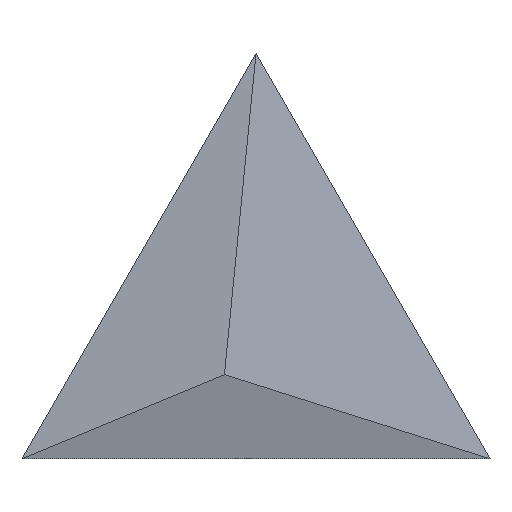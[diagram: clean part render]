
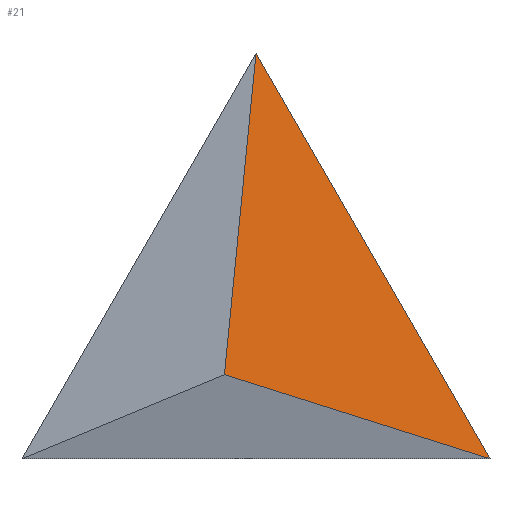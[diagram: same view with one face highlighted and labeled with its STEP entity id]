
A CAD part, top view. The second image highlights one B-rep face of the part: STEP entity #21.
In plain terms, the highlighted planar face has unit normal (0.094, 0.054, 0.994).
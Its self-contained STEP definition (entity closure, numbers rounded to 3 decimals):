
#21=ADVANCED_FACE('',(#28),#97,.T.);
#28=FACE_OUTER_BOUND('',#35,.T.);
#35=EDGE_LOOP('',(#57,#58,#59));
#57=ORIENTED_EDGE('',*,*,#70,.F.);
#58=ORIENTED_EDGE('',*,*,#71,.T.);
#59=ORIENTED_EDGE('',*,*,#62,.T.);
#62=EDGE_CURVE('',#87,#86,#74,.T.);
#70=EDGE_CURVE('',#90,#86,#82,.T.);
#71=EDGE_CURVE('',#90,#87,#83,.T.);
#74=B_SPLINE_CURVE_WITH_KNOTS('',1,(#156,#157),.UNSPECIFIED.,.F.,.F.,(2,
2),(250.,500.),.UNSPECIFIED.);
#82=B_SPLINE_CURVE_WITH_KNOTS('',1,(#172,#173),.UNSPECIFIED.,.F.,.F.,(2,
2),(112.139,280.803),.UNSPECIFIED.);
#83=B_SPLINE_CURVE_WITH_KNOTS('',1,(#174,#175),.UNSPECIFIED.,.F.,.F.,(2,
2),(112.139,270.496),.UNSPECIFIED.);
#86=VERTEX_POINT('',#147);
#87=VERTEX_POINT('',#148);
#90=VERTEX_POINT('',#151);
#97=PLANE('',#124);
#124=AXIS2_PLACEMENT_3D('',#144,#134,$);
#134=DIRECTION('',(0.094,0.054,0.994));
#144=CARTESIAN_POINT('',(252.12,-1.663,13.89));
#147=CARTESIAN_POINT('',(125.,216.506,14.));
#148=CARTESIAN_POINT('',(250.,0.,14.));
#151=CARTESIAN_POINT('',(108.125,44.852,25.));
#156=CARTESIAN_POINT('',(250.,0.,14.));
#157=CARTESIAN_POINT('',(125.,216.506,14.));
#172=CARTESIAN_POINT('',(108.125,44.852,25.));
#173=CARTESIAN_POINT('',(125.,216.506,14.));
#174=CARTESIAN_POINT('',(108.125,44.852,25.));
#175=CARTESIAN_POINT('',(250.,0.,14.));
